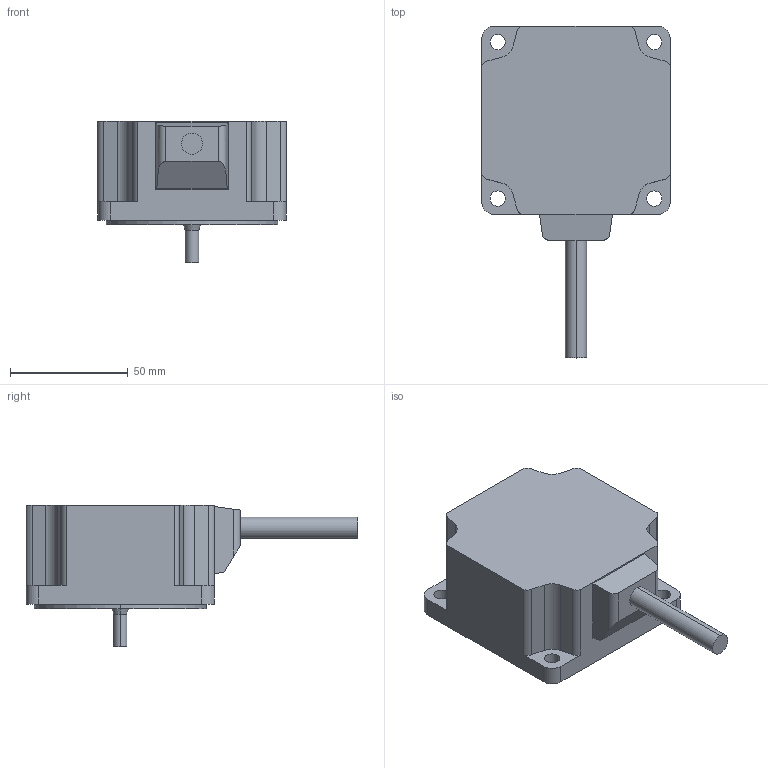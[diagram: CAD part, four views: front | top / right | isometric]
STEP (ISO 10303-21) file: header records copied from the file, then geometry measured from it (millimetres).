
FILE_DESCRIPTION (( 'STEP AP203' ), '1' );
FILE_NAME ('A1887-GF.step', '2024-04-24T07:20:35', ( '' ), ( '' ), 'SwSTEP 2.0', 'SolidWorks 2023', '' );
FILE_SCHEMA (( 'CONFIG_CONTROL_DESIGN' ));
Length unit declared in the file: millimetre
Products named in the file (1): A1887-GF
Bounding box: 80 x 141 x 60 mm (x, y, z)
Volume: 261363.1 mm3; surface area: 28479.3 mm2
Topology: 1 solids, 1 shells, 61 faces, 163 edges, 108 vertices
Faces by surface type: cylinder 32, plane 27, cone 2
Entity records: 2016 total; most frequent: CARTESIAN_POINT 345, DIRECTION 345, ORIENTED_EDGE 326, EDGE_CURVE 163, AXIS2_PLACEMENT_3D 124, VERTEX_POINT 108, LINE 97, VECTOR 97
